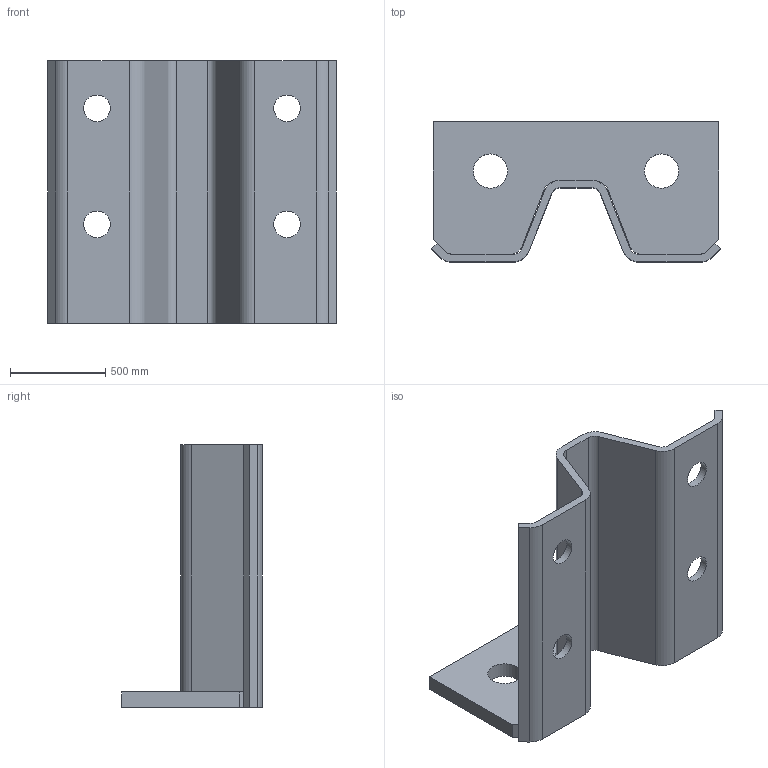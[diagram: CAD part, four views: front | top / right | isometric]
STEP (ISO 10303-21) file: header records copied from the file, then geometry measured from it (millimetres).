
FILE_DESCRIPTION(/* description */ (''),/* implementation_level */ '2;1');
FILE_NAME(/* name */ 'ZB155W90.stp',/* time_stamp */ '2024-10-31T15:18:49+01:00',/* author */ ('woriedl'),/* organization */ (''),/* preprocessor_version */ 'ST-DEVELOPER v20',/* originating_system */ 'AutoCAD Mechanical',/* authorisation */ '');
FILE_SCHEMA (('AUTOMOTIVE_DESIGN { 1 0 10303 214 3 1 1 }'));
Length unit declared in the file: centimetre
Products named in the file (3): Product; ZC155; W90
Assembly tree (2 placements, depth 2):
  Product
    ZC155
    W90
Bounding box: 1517.2 x 740 x 1380 mm (x, y, z)
Volume: 174298411.8 mm3; surface area: 7896223.9 mm2
Topology: 2 solids, 2 shells, 54 faces, 150 edges, 100 vertices
Faces by surface type: plane 30, cylinder 24
Full cylindrical faces by diameter (mm): 140 x4, 180 x2
Entity records: 1830 total; most frequent: DIRECTION 316, CARTESIAN_POINT 309, ORIENTED_EDGE 300, EDGE_CURVE 150, AXIS2_PLACEMENT_3D 107, LINE 102, VECTOR 102, VERTEX_POINT 100
